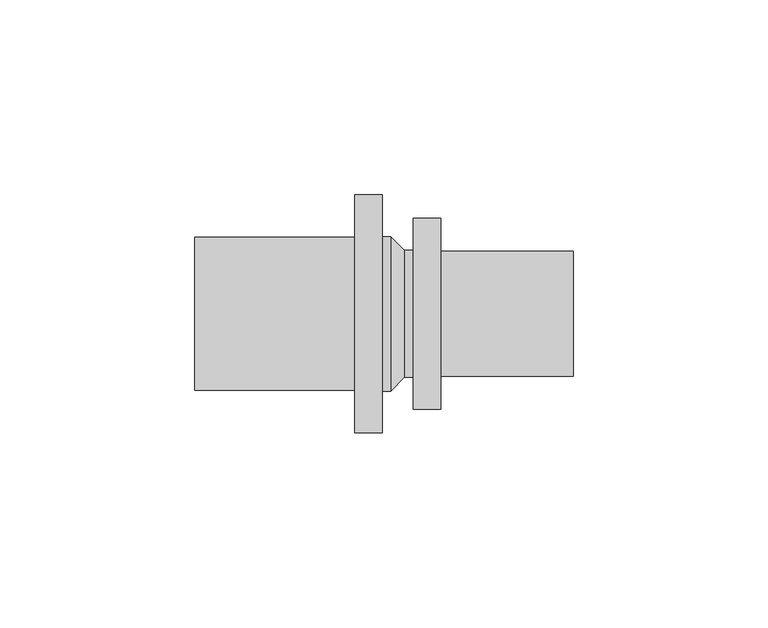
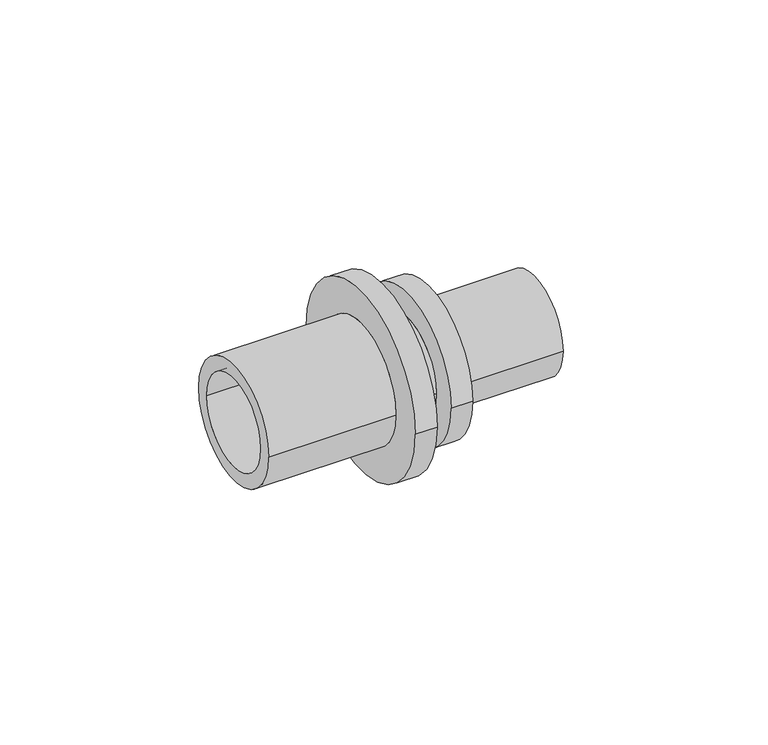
"""IFC4 building model written with IfcOpenShell, lengths in millimetres: pipe fitting geometry, RAUTITAN_Transition_LX : RTI LX Tr DE."""

from ifc_helpers import new_model, si_unit, frame, origin, place, context, project, spatial, polyline, circle_curve, source, transform, mapped, element, save
from ifc_brep_helpers import plane_surface, cylinder_surface, revolved_surface, advanced_brep


def pipe_fitting_6357771a(model_context):
    return source(origin(), model_context, "Body", "AdvancedBrep", [
        advanced_brep(
        [(-52.0, 15.0, 0.0), (-52.0, -15.0, 0.0), (-1.75, -15.0, 0.0), (-1.75, 15.0, 0.0), (-1.75, 19.8, 0.0), (-1.75, -19.8, 0.0), (-4.0, -19.8, 0.0), (-4.0, 19.8, 0.0), (1.75, 16.3, 0.0), (1.75, -16.3, 0.0), (4.0, 16.3, 0.0), (4.0, -16.3, 0.0), (11.0, 24.5, 0.0), (11.0, -24.5, 0.0), (4.0, -24.5, 0.0), (4.0, 24.5, 0.0), (45.0, 16.0, 0.0), (45.0, -16.0, 0.0), (11.0, -16.0, 0.0), (11.0, 16.0, 0.0), (1.75, 11.5, 0.0), (1.75, -11.5, 0.0), (45.0, -11.5, 0.0), (45.0, 11.5, 0.0), (-4.0, 30.5, 0.0), (-4.0, -30.5, 0.0), (-11.0, 19.6, 0.0), (-11.0, -19.6, 0.0), (-52.0, -19.6, 0.0), (-52.0, 19.6, 0.0), (-11.0, -30.5, 0.0), (-11.0, 30.5, 0.0)],
        [
            (0, 1, circle_curve(frame((-52.0, 0.0, 0.0), z_axis=(-1.0, 0.0, 0.0), x_axis=(0.0, -1.0, 0.0)), 15.0)),
            (1, 2),
            (2, 3, circle_curve(frame((-1.75, 0.0, 0.0), z_axis=(1.0, 0.0, 0.0), x_axis=(0.0, -1.0, 0.0)), 15.0)),
            (3, 0),
            (4, 5, circle_curve(frame((-1.75, 0.0, 0.0), z_axis=(-1.0, 0.0, 0.0), x_axis=(0.0, -1.0, 0.0)), 19.8)),
            (5, 6),
            (6, 7, circle_curve(frame((-4.0, 0.0, 0.0), z_axis=(1.0, 0.0, 0.0), x_axis=(0.0, -1.0, 0.0)), 19.8)),
            (7, 4),
            (8, 9, circle_curve(frame((1.75, 0.0, 0.0), z_axis=(-1.0, 0.0, 0.0), x_axis=(0.0, -1.0, 0.0)), 16.3)),
            (9, 5),
            (4, 8),
            (10, 11, circle_curve(frame((4.0, 0.0, 0.0), z_axis=(-1.0, 0.0, 0.0), x_axis=(0.0, -1.0, 0.0)), 16.3)),
            (11, 9),
            (8, 10),
            (12, 13, circle_curve(frame((11.0, 0.0, 0.0), z_axis=(-1.0, 0.0, 0.0), x_axis=(0.0, -1.0, 0.0)), 24.5)),
            (13, 14),
            (14, 15, circle_curve(frame((4.0, 0.0, 0.0), z_axis=(1.0, 0.0, 0.0), x_axis=(0.0, -1.0, 0.0)), 24.5)),
            (15, 12),
            (16, 17, circle_curve(frame((45.0, 0.0, 0.0), z_axis=(-1.0, 0.0, 0.0), x_axis=(0.0, -1.0, 0.0)), 16.0)),
            (17, 18),
            (18, 19, circle_curve(frame((11.0, 0.0, 0.0), z_axis=(1.0, 0.0, 0.0), x_axis=(0.0, -1.0, 0.0)), 16.0)),
            (19, 16),
            (20, 21, circle_curve(frame((1.75, 0.0, 0.0), z_axis=(-1.0, 0.0, 0.0), x_axis=(0.0, -1.0, 0.0)), 11.5)),
            (21, 22),
            (22, 23, circle_curve(frame((45.0, 0.0, 0.0), z_axis=(1.0, 0.0, 0.0), x_axis=(0.0, -1.0, 0.0)), 11.5)),
            (23, 20),
            (2, 21),
            (20, 3),
            (1, 0, circle_curve(frame((-52.0, 0.0, 0.0), z_axis=(-1.0, 0.0, 0.0), x_axis=(0.0, 1.0, 0.0)), 15.0)),
            (3, 2, circle_curve(frame((-1.75, 0.0, 0.0), z_axis=(1.0, 0.0, 0.0), x_axis=(0.0, 1.0, 0.0)), 15.0)),
            (24, 25, circle_curve(frame((-4.0, 0.0, 0.0), z_axis=(1.0, 0.0, 0.0), x_axis=(0.0, 1.0, 0.0)), 30.5)),
            (25, 24, circle_curve(frame((-4.0, 0.0, 0.0), z_axis=(1.0, 0.0, 0.0), x_axis=(0.0, -1.0, 0.0)), 30.5)),
            (6, 7, circle_curve(frame((-4.0, 0.0, 0.0), z_axis=(-1.0, 0.0, 0.0), x_axis=(0.0, 1.0, 0.0)), 19.8)),
            (5, 4, circle_curve(frame((-1.75, 0.0, 0.0), z_axis=(-1.0, 0.0, 0.0), x_axis=(0.0, 1.0, 0.0)), 19.8)),
            (9, 8, circle_curve(frame((1.75, 0.0, 0.0), z_axis=(-1.0, 0.0, 0.0), x_axis=(0.0, 1.0, 0.0)), 16.3)),
            (11, 10, circle_curve(frame((4.0, 0.0, 0.0), z_axis=(-1.0, 0.0, 0.0), x_axis=(0.0, 1.0, 0.0)), 16.3)),
            (14, 15, circle_curve(frame((4.0, 0.0, 0.0), z_axis=(-1.0, 0.0, 0.0), x_axis=(0.0, 1.0, 0.0)), 24.5)),
            (13, 12, circle_curve(frame((11.0, 0.0, 0.0), z_axis=(-1.0, 0.0, 0.0), x_axis=(0.0, 1.0, 0.0)), 24.5)),
            (18, 19, circle_curve(frame((11.0, 0.0, 0.0), z_axis=(-1.0, 0.0, 0.0), x_axis=(0.0, 1.0, 0.0)), 16.0)),
            (17, 16, circle_curve(frame((45.0, 0.0, 0.0), z_axis=(-1.0, 0.0, 0.0), x_axis=(0.0, 1.0, 0.0)), 16.0)),
            (22, 23, circle_curve(frame((45.0, 0.0, 0.0), z_axis=(-1.0, 0.0, 0.0), x_axis=(0.0, 1.0, 0.0)), 11.5)),
            (21, 20, circle_curve(frame((1.75, 0.0, 0.0), z_axis=(-1.0, 0.0, 0.0), x_axis=(0.0, 1.0, 0.0)), 11.5)),
            (26, 27, circle_curve(frame((-11.0, 0.0, 0.0), z_axis=(-1.0, 0.0, 0.0), x_axis=(0.0, -1.0, 0.0)), 19.6)),
            (27, 28),
            (28, 29, circle_curve(frame((-52.0, 0.0, 0.0), z_axis=(1.0, 0.0, 0.0), x_axis=(0.0, -1.0, 0.0)), 19.6)),
            (29, 26),
            (25, 30),
            (30, 31, circle_curve(frame((-11.0, 0.0, 0.0), z_axis=(1.0, 0.0, 0.0), x_axis=(0.0, -1.0, 0.0)), 30.5)),
            (31, 24),
            (28, 29, circle_curve(frame((-52.0, 0.0, 0.0), z_axis=(-1.0, 0.0, 0.0), x_axis=(0.0, 1.0, 0.0)), 19.6)),
            (27, 26, circle_curve(frame((-11.0, 0.0, 0.0), z_axis=(-1.0, 0.0, 0.0), x_axis=(0.0, 1.0, 0.0)), 19.6)),
            (30, 31, circle_curve(frame((-11.0, 0.0, 0.0), z_axis=(-1.0, 0.0, 0.0), x_axis=(0.0, 1.0, 0.0)), 30.5)),
        ],
        [
            revolved_surface(polyline([(-1.75, -15.0, 0.0), (-52.0, -15.0, 0.0)]), (0.0, 0.0, 0.0), (1.0, 0.0, 0.0)),
            cylinder_surface(frame((0.0, 0.0, 0.0), z_axis=(1.0, 0.0, 0.0), x_axis=(0.0, -1.0, 0.0)), 19.8),
            revolved_surface(polyline([(-1.75, -19.8, 0.0), (1.75, -16.3, 0.0)]), (0.0, 0.0, 0.0), (1.0, 0.0, 0.0)),
            cylinder_surface(frame((0.0, 0.0, 0.0), z_axis=(1.0, 0.0, 0.0), x_axis=(0.0, -1.0, 0.0)), 16.3),
            cylinder_surface(frame((0.0, 0.0, 0.0), z_axis=(1.0, 0.0, 0.0), x_axis=(0.0, -1.0, 0.0)), 24.5),
            cylinder_surface(frame((0.0, 0.0, 0.0), z_axis=(1.0, 0.0, 0.0), x_axis=(0.0, -1.0, 0.0)), 16.0),
            revolved_surface(polyline([(45.0, -11.5, 0.0), (1.75, -11.5, 0.0)]), (0.0, 0.0, 0.0), (1.0, 0.0, 0.0)),
            revolved_surface(polyline([(1.75, -11.5, 0.0), (-1.75, -15.0, 0.0)]), (0.0, 0.0, 0.0), (1.0, 0.0, 0.0)),
            revolved_surface(polyline([(-1.75, 15.0, 0.0), (-52.0, 15.0, 0.0)]), (0.0, 0.0, 0.0), (1.0, 0.0, 0.0)),
            plane_surface(frame((-4.0, 0.0, 0.0), z_axis=(1.0, 0.0, 0.0), x_axis=(0.0, 1.0, 0.0))),
            cylinder_surface(frame((0.0, 0.0, 0.0), z_axis=(1.0, 0.0, 0.0), x_axis=(0.0, 1.0, 0.0)), 19.8),
            revolved_surface(polyline([(-1.75, 19.8, 0.0), (1.75, 16.3, 0.0)]), (0.0, 0.0, 0.0), (1.0, 0.0, 0.0)),
            cylinder_surface(frame((0.0, 0.0, 0.0), z_axis=(1.0, 0.0, 0.0), x_axis=(0.0, 1.0, 0.0)), 16.3),
            plane_surface(frame((4.0, 0.0, 0.0), z_axis=(-1.0, 0.0, 0.0), x_axis=(0.0, 1.0, 0.0))),
            cylinder_surface(frame((0.0, 0.0, 0.0), z_axis=(1.0, 0.0, 0.0), x_axis=(0.0, 1.0, 0.0)), 24.5),
            plane_surface(frame((11.0, 0.0, 0.0), z_axis=(1.0, 0.0, 0.0), x_axis=(0.0, 1.0, 0.0))),
            cylinder_surface(frame((0.0, 0.0, 0.0), z_axis=(1.0, 0.0, 0.0), x_axis=(0.0, 1.0, 0.0)), 16.0),
            plane_surface(frame((45.0, 0.0, 0.0), z_axis=(1.0, 0.0, 0.0), x_axis=(0.0, 1.0, 0.0))),
            revolved_surface(polyline([(45.0, 11.5, 0.0), (1.75, 11.5, 0.0)]), (0.0, 0.0, 0.0), (1.0, 0.0, 0.0)),
            revolved_surface(polyline([(1.75, 11.5, 0.0), (-1.75, 15.0, 0.0)]), (0.0, 0.0, 0.0), (1.0, 0.0, 0.0)),
            cylinder_surface(frame((0.0, 0.0, 0.0), z_axis=(1.0, 0.0, 0.0), x_axis=(0.0, -1.0, 0.0)), 19.6),
            cylinder_surface(frame((0.0, 0.0, 0.0), z_axis=(1.0, 0.0, 0.0), x_axis=(0.0, -1.0, 0.0)), 30.5),
            plane_surface(frame((-52.0, 0.0, 0.0), z_axis=(-1.0, 0.0, 0.0), x_axis=(0.0, 1.0, 0.0))),
            cylinder_surface(frame((0.0, 0.0, 0.0), z_axis=(1.0, 0.0, 0.0), x_axis=(0.0, 1.0, 0.0)), 19.6),
            plane_surface(frame((-11.0, 0.0, 0.0), z_axis=(-1.0, 0.0, 0.0), x_axis=(0.0, 1.0, 0.0))),
            cylinder_surface(frame((0.0, 0.0, 0.0), z_axis=(1.0, 0.0, 0.0), x_axis=(0.0, 1.0, 0.0)), 30.5),
        ],
        [
            (0, [[1, 2, 3, 4]]),
            (1, [[5, 6, 7, 8]]),
            (2, [[9, 10, -5, 11]]),
            (3, [[12, 13, -9, 14]]),
            (4, [[15, 16, 17, 18]]),
            (5, [[19, 20, 21, 22]]),
            (6, [[23, 24, 25, 26]]),
            (7, [[-3, 27, -23, 28]]),
            (8, [[29, -4, 30, -2]]),
            (9, [[31, 32], [33, -7]]),
            (10, [[34, -8, -33, -6]]),
            (11, [[35, -11, -34, -10]]),
            (12, [[36, -14, -35, -13]]),
            (13, [[37, -17], [-36, -12]]),
            (14, [[38, -18, -37, -16]]),
            (15, [[-38, -15], [39, -21]]),
            (16, [[40, -22, -39, -20]]),
            (17, [[-40, -19], [41, -25]]),
            (18, [[42, -26, -41, -24]]),
            (19, [[-30, -28, -42, -27]]),
            (20, [[43, 44, 45, 46]]),
            (21, [[-32, 47, 48, 49]]),
            (22, [[50, -45], [-29, -1]]),
            (23, [[51, -46, -50, -44]]),
            (24, [[52, -48], [-51, -43]]),
            (25, [[-31, -49, -52, -47]]),
        ],
    ),
    ])


if __name__ == "__main__":
    model = new_model("IFC4")
    model_context = context("Model", 3, world=origin())
    ifc_project = project(units=[si_unit("LENGTHUNIT", "METRE", prefix="MILLI")], contexts=[model_context])
    site = spatial("IfcSite", under=ifc_project)
    building = spatial("IfcBuilding", under=site)
    placement = place(None, origin())
    pipe_fitting_shape = pipe_fitting_6357771a(model_context)
    element("IfcPipeFitting", 1, ObjectType="RAUTITAN_Transition_LX : RTI LX Tr DE", at=placement, inside=building, context=model_context, shape_type="MappedRepresentation", body=[
        mapped(pipe_fitting_shape, transform((0.0, 0.0, 0.0), x_axis=(1.0, 0.0, 0.0), y_axis=(0.0, 1.0, 0.0), z_axis=(0.0, 0.0, 1.0))),
    ])
    save(model, "model.ifc")
